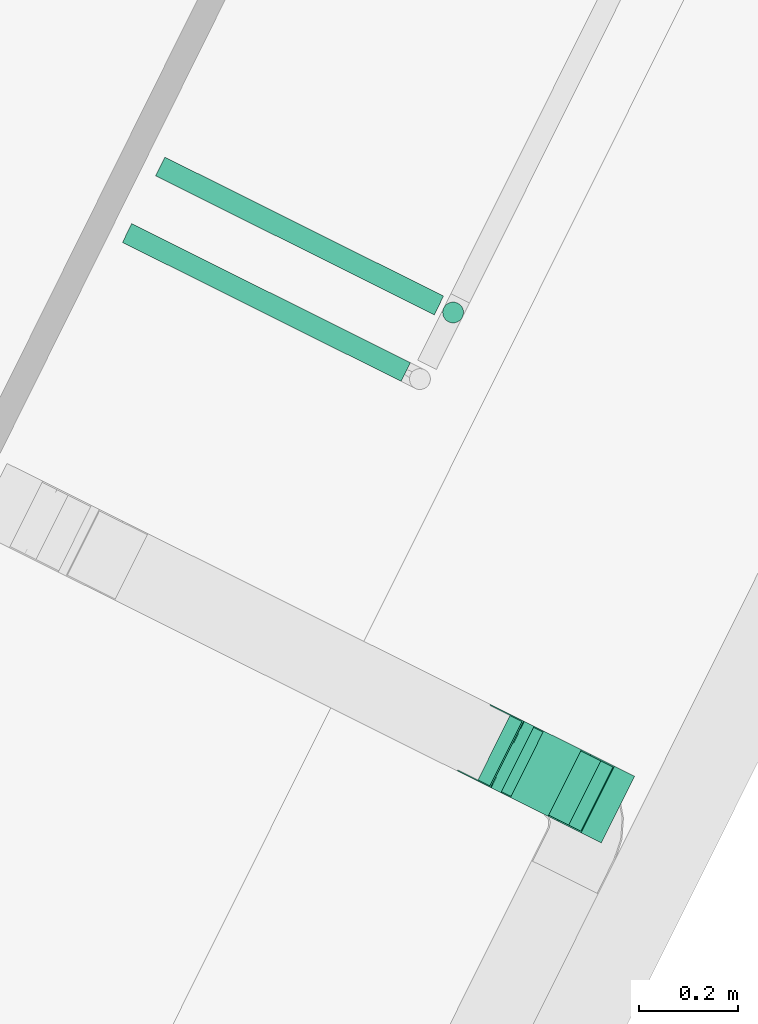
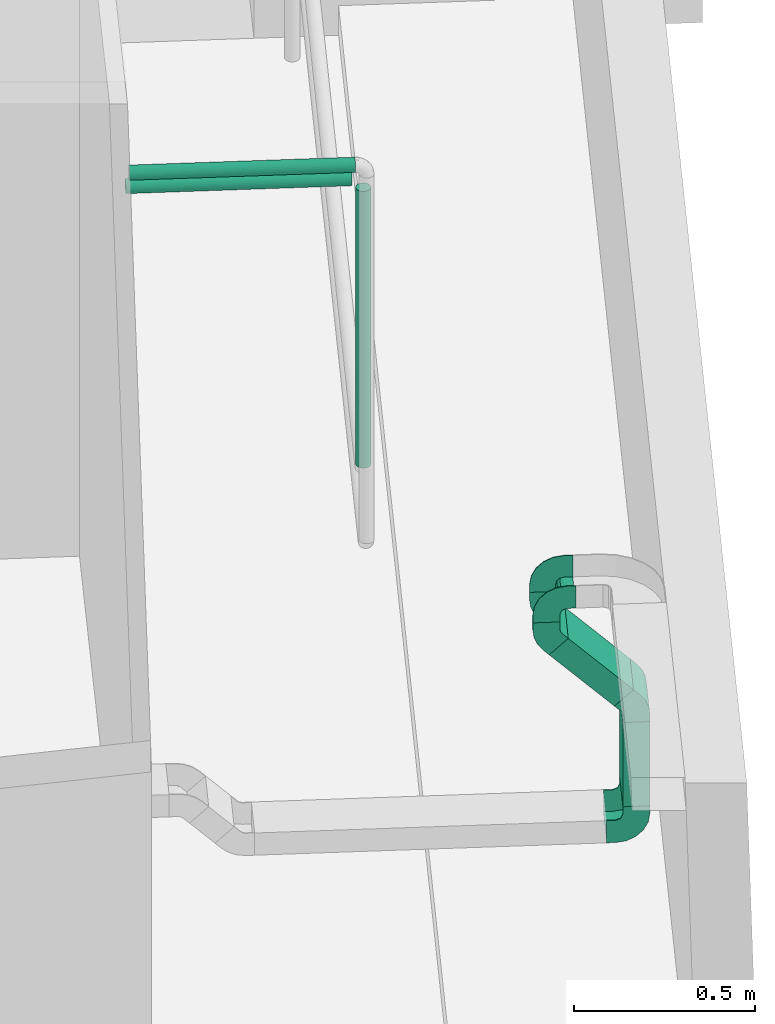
# One storey, part 22 of 34: 5 flow segments, 4 flow fittings.
"""IFC2X3 building model written with IfcOpenShell, lengths in metres."""

from ifc_helpers import new_model, entity, si_unit, converted_unit, derived_unit, direction, frame, frame_2d, origin, origin_2d_with_axis, place, context, subcontext, project, spatial, rectangle, circle, extrude, faceted_brep, source, transform, mapped, type_object, type_shapes, element, save


model = new_model("IFC2X3")

# Units and contexts
model_context = context("Model", 3, precision=1e-05, world=origin(), true_north=direction((0.894925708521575, 0.446215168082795)))
context_of_model = context(None, 3, precision=1e-05, world=origin(), true_north=direction((0.894925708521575, 0.446215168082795)))
body_context = subcontext(model_context, "Body", "Model", "MODEL_VIEW")
ifc_project = project(units=[si_unit("LENGTHUNIT", "METRE"), si_unit("AREAUNIT", "SQUARE_METRE"), si_unit("VOLUMEUNIT", "CUBIC_METRE"), converted_unit("PLANEANGLEUNIT", "DEGREE", entity("IfcRatioMeasure", 0.0174532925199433), si_unit("PLANEANGLEUNIT", "RADIAN"), dimensions=[0, 0, 0, 0, 0, 0, 0]), si_unit("MASSUNIT", "GRAM", prefix="KILO"), si_unit("TIMEUNIT", "SECOND"), si_unit("FREQUENCYUNIT", "HERTZ"), si_unit("THERMODYNAMICTEMPERATUREUNIT", "DEGREE_CELSIUS"), derived_unit("THERMALTRANSMITTANCEUNIT", [(si_unit("MASSUNIT", "GRAM", prefix="KILO"), 1), (si_unit("THERMODYNAMICTEMPERATUREUNIT", "KELVIN"), -1), (si_unit("TIMEUNIT", "SECOND"), -3)]), derived_unit("VOLUMETRICFLOWRATEUNIT", [(si_unit("LENGTHUNIT", "METRE"), 3), (si_unit("TIMEUNIT", "SECOND"), -1)]), si_unit("ELECTRICCURRENTUNIT", "AMPERE"), si_unit("ELECTRICVOLTAGEUNIT", "VOLT"), si_unit("POWERUNIT", "WATT"), si_unit("FORCEUNIT", "NEWTON", prefix="KILO"), si_unit("ILLUMINANCEUNIT", "LUX"), si_unit("LUMINOUSFLUXUNIT", "LUMEN"), si_unit("LUMINOUSINTENSITYUNIT", "CANDELA"), si_unit("PRESSUREUNIT", "PASCAL")], contexts=[model_context, context_of_model])

# Site, building, storey
site_placement = place(None, frame((218.228324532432, 584.720189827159, 0.0), z_axis=(0.0, 0.0, 1.0), x_axis=(0.446215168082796, 0.894925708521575, 0.0)))
site = spatial("IfcSite", under=ifc_project, at=site_placement, Name="Default", CompositionType="ELEMENT")
building_placement = place(site_placement, origin())
building = spatial("IfcBuilding", under=site, at=building_placement, CompositionType="ELEMENT")
storey_placement = place(building_placement, frame((0.0, 0.0, 8.61)))
storey = spatial("IfcBuildingStorey", under=building, at=storey_placement, Name="2 - Piano Secondo", CompositionType="ELEMENT", Elevation=8.61)

# Flow segments
cable_carrier_segment_type = type_object("IfcCableCarrierSegmentType", Name="Passerella con raccordi:Passerella canale", PredefinedType="NOTDEFINED")
flow_segment_1_placement = place(storey_placement, frame((-1.13742741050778, -13.1610789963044, 0.270000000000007)))
element("IfcFlowSegment", 1, at=flow_segment_1_placement, inside=storey, type_object=cable_carrier_segment_type, Name="Passerella con raccordi:Passerella canale", ObjectType="Passerella con raccordi:Passerella canale", context=body_context, shape_type="SweptSolid", body=[
    extrude(rectangle(XDim=0.15, YDim=0.0750000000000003, at=origin_2d_with_axis()), frame((0.0750000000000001, 0.0375000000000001, 0.0)), (0.0, 0.0, 1.0), 0.284865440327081),
])
flow_segment_2_placement = place(storey_placement, frame((-1.13742741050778, -13.1155764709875, 0.611685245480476)))
element("IfcFlowSegment", 2, at=flow_segment_2_placement, inside=storey, type_object=cable_carrier_segment_type, Name="Passerella con raccordi:Passerella canale", ObjectType="Passerella con raccordi:Passerella canale", context=body_context, shape_type="SweptSolid", body=[
    extrude(rectangle(XDim=0.0750000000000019, YDim=0.15, at=frame_2d((0.0, 7.63278329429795e-16), x_axis=(0.0, 1.0))), frame((0.0750000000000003, 0.0265165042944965, 0.0265165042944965), z_axis=(0.0, 0.70710678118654, 0.707106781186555), x_axis=(1.0, 0.0, 0.0)), (0.0, 0.0, 1.0), 0.25591883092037),
])
pipe_segment_type = type_object("IfcPipeSegmentType", Name="Tubazione:Antincendio-Tubazione", PredefinedType="NOTDEFINED")
flow_segment_3_placement = place(storey_placement, frame((-0.486246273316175, -12.3840789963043, 1.97732272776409)))
element("IfcFlowSegment", 3, at=flow_segment_3_placement, inside=storey, type_object=pipe_segment_type, Name="Tubazione:Antincendio-Tubazione", ObjectType="Tubazione:Antincendio-Tubazione", context=body_context, shape_type="SweptSolid", body=[
    extrude(circle(Radius=0.021082, at=frame_2d((6.76791955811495e-17, 0.0), x_axis=(1.0, 0.0))), frame((0.0226772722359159, 0.0, 0.0226772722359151), z_axis=(0.0, 1.0, 0.0), x_axis=(1.0, 0.0, 0.0)), (0.0, 0.0, 1.0), 0.627999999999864),
])
flow_segment_4_placement = place(storey_placement, frame((-0.336246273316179, -12.3840789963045, 1.82732272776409)))
element("IfcFlowSegment", 4, at=flow_segment_4_placement, inside=storey, type_object=pipe_segment_type, Name="Tubazione:Antincendio-Tubazione", ObjectType="Tubazione:Antincendio-Tubazione", context=body_context, shape_type="SweptSolid", body=[
    extrude(circle(Radius=0.021082, at=frame_2d((6.76791955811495e-17, -2.16573425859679e-15), x_axis=(1.0, 0.0))), frame((0.0226772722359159, 0.0, 0.022677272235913), z_axis=(0.0, 1.0, 0.0), x_axis=(1.0, 0.0, 0.0)), (0.0, 0.0, 1.0), 0.628000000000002),
])
flow_segment_5_placement = place(storey_placement, frame((-0.336246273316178, -12.4387562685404, 0.881999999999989)))
element("IfcFlowSegment", 5, at=flow_segment_5_placement, inside=storey, type_object=pipe_segment_type, Name="Tubazione:Antincendio-Tubazione", ObjectType="Tubazione:Antincendio-Tubazione", context=body_context, shape_type="SweptSolid", body=[
    extrude(circle(Radius=0.021082, at=origin_2d_with_axis()), frame((0.0226772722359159, 0.0226772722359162, 0.0)), (0.0, 0.0, 1.0), 0.936000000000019),
])

# Flow fittings
cable_carrier_fitting_type_1 = type_object("IfcCableCarrierFittingType", Name="Standard", PredefinedType="NOTDEFINED")
shared_shape_1 = source(origin(), body_context, "Body", "Brep", [
    faceted_brep([(-0.0824999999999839, -0.0375000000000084, -0.0750000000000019), (-0.0824999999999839, -0.0375000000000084, -0.0724600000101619), (-0.0824999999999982, 0.0349600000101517, -0.0724600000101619), (-0.0824999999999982, 0.0349600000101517, 0.0724600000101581), (-0.0824999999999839, -0.0375000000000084, 0.0724600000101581), (-0.0824999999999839, -0.0375000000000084, 0.0749999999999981), (-0.0824999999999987, 0.0374999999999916, 0.0749999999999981), (-0.0824999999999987, 0.0374999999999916, -0.0750000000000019), (-0.0374999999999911, 0.0824999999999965, -0.0750000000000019), (-0.0374999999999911, 0.0824999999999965, 0.0749999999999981), (0.0375000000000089, 0.0824999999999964, 0.0749999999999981), (0.0375000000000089, 0.0824999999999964, 0.0724600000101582), (-0.0349600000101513, 0.0824999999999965, 0.0724600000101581), (-0.0349600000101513, 0.0824999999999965, -0.0724600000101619), (0.0375000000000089, 0.0824999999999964, -0.0724600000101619), (0.0375000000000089, 0.0824999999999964, -0.0750000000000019), (-0.057499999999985, -0.0375000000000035, 0.0749999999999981), (-0.0470387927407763, -0.0358431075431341, 0.0749999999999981), (-0.0375910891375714, -0.0343467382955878, 0.0749999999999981), (-0.0281433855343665, -0.0328503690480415, 0.0749999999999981), (-0.0149018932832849, -0.0261034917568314, 0.0749999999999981), (-0.00166040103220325, -0.0193566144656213, 0.0749999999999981), (0.0088481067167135, -0.00884810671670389, 0.0749999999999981), (0.0193566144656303, 0.00166040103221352, 0.0749999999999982), (0.0261034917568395, 0.0149018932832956, 0.0749999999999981), (0.0328503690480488, 0.0281433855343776, 0.0749999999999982), (0.0343467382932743, 0.0375910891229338, 0.0749999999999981), (0.0358431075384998, 0.04703879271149, 0.0749999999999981), (0.0375000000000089, 0.0574999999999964, 0.0749999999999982), (-0.0374999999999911, 0.0574999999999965, 0.0749999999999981), (-0.0388551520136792, 0.0542283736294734, 0.0749999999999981), (-0.0404289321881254, 0.0504289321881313, 0.0749999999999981), (-0.0418933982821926, 0.0468933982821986, 0.0749999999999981), (-0.0433578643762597, 0.043357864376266, 0.0749999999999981), (-0.0471573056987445, 0.0417840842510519, 0.0749999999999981), (-0.0509567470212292, 0.0402103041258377, 0.0749999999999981), (-0.0542283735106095, 0.0388551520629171, 0.0749999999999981), (-0.0574999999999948, 0.0374999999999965, 0.0749999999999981), (-0.0574999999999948, 0.0374999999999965, -0.0750000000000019), (-0.0539644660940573, 0.0389644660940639, -0.0750000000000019), (-0.0504289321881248, 0.0404289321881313, -0.0750000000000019), (-0.0468933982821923, 0.0418933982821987, -0.0750000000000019), (-0.0433578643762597, 0.043357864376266, -0.0750000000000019), (-0.0418933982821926, 0.0468933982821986, -0.0750000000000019), (-0.0404289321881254, 0.0504289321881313, -0.0750000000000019), (-0.0389644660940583, 0.0539644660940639, -0.0750000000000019), (-0.0374999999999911, 0.0574999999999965, -0.0750000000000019), (0.0375000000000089, 0.0574999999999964, -0.0750000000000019), (0.0358431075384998, 0.0470387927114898, -0.0750000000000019), (0.0343467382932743, 0.0375910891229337, -0.0750000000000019), (0.0328503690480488, 0.0281433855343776, -0.0750000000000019), (0.0261034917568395, 0.0149018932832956, -0.0750000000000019), (0.0193566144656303, 0.00166040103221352, -0.0750000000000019), (0.0088481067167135, -0.00884810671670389, -0.0750000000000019), (-0.00166040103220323, -0.0193566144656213, -0.0750000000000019), (-0.0149018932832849, -0.0261034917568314, -0.0750000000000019), (-0.0281433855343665, -0.0328503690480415, -0.0750000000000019), (-0.0428216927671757, -0.0351751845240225, -0.0750000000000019), (-0.05749999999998, -0.0375000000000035, -0.0750000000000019), (-0.05749999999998, -0.0375000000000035, -0.0724600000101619), (-0.05749999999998, -0.0375000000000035, 0.0724600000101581), (-0.0428216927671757, -0.0351751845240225, -0.0724600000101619), (-0.0281433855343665, -0.0328503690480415, -0.0724600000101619), (-0.0149018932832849, -0.0261034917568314, -0.0724600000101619), (-0.00166040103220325, -0.0193566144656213, -0.0724600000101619), (0.0088481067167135, -0.00884810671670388, -0.0724600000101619), (0.0193566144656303, 0.00166040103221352, -0.0724600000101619), (0.0261034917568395, 0.0149018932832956, -0.0724600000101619), (0.0328503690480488, 0.0281433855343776, -0.0724600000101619), (0.0351751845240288, 0.042821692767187, -0.0724600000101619), (0.0375000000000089, 0.0574999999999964, -0.0724600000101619), (-0.0349600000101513, 0.0574999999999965, -0.0724600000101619), (-0.03646989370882, 0.0518650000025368, -0.0724600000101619), (-0.0379797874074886, 0.046230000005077, -0.0724600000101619), (-0.0421048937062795, 0.0421048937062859, -0.0724600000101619), (-0.0462300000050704, 0.0379797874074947, -0.0724600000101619), (-0.05186500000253, 0.0364698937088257, -0.0724600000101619), (-0.0574999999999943, 0.0349600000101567, -0.0724600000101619), (-0.0574999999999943, 0.0349600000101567, 0.0724600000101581), (-0.0281433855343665, -0.0328503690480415, 0.0724600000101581), (-0.0428216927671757, -0.0351751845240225, 0.0724600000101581), (-0.0532027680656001, 0.0361114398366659, 0.0724600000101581), (-0.0462300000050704, 0.0379797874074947, 0.0724600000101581), (-0.0421048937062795, 0.0421048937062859, 0.0724600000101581), (-0.0379797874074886, 0.046230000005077, 0.0724600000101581), (-0.0361114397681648, 0.053202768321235, 0.0724600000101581), (-0.0349600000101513, 0.0574999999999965, 0.0724600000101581), (0.0375000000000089, 0.0574999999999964, 0.0724600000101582), (0.0351751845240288, 0.042821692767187, 0.0724600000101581), (0.0328503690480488, 0.0281433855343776, 0.0724600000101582), (0.0261034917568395, 0.0149018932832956, 0.0724600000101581), (0.0193566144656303, 0.00166040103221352, 0.0724600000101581), (0.0088481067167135, -0.00884810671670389, 0.0724600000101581), (-0.00166040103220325, -0.0193566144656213, 0.0724600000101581), (-0.0149018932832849, -0.0261034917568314, 0.0724600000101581)], [[[0, 1, 2, 3, 4, 5, 6, 7]], [[8, 9, 10, 11, 12, 13, 14, 15]], [[6, 5, 16, 17, 18, 19, 20, 21, 22, 23, 24, 25, 26, 27, 28, 10, 9, 29, 30, 31, 32, 33, 34, 35, 36, 37]], [[7, 6, 37, 38]], [[7, 38, 39, 40, 41, 42, 43, 44, 45, 46, 8, 15, 47, 48, 49, 50, 51, 52, 53, 54, 55, 56, 57, 58, 0]], [[1, 0, 58, 59]], [[5, 4, 60, 16]], [[2, 1, 59, 61, 62, 63, 64, 65, 66, 67, 68, 69, 70, 14, 13, 71, 72, 73, 74, 75, 76, 77]], [[3, 2, 77, 78]], [[79, 80, 60, 4, 3, 78, 81, 82, 83, 84, 85, 86, 12, 11, 87, 88, 89, 90, 91, 92, 93, 94]], [[34, 33, 42, 41, 40, 39, 38, 37, 36, 35]], [[32, 31, 30, 29, 46, 45, 44, 43, 42, 33]], [[56, 62, 61, 59, 58, 57]], [[18, 17, 16, 60, 80, 79, 19]], [[63, 62, 56, 55, 54, 64]], [[79, 94, 93, 21, 20, 19]], [[68, 50, 49, 48, 47, 70, 69]], [[88, 87, 28, 27, 26, 25, 89]], [[64, 54, 53, 52, 66, 65]], [[23, 22, 21, 93, 92, 91]], [[67, 66, 52, 51, 50, 68]], [[91, 90, 89, 25, 24, 23]], [[82, 81, 78, 77, 76, 75]], [[73, 84, 83, 82, 75, 74]], [[71, 86, 85, 84, 73, 72]], [[46, 29, 9, 8]], [[70, 47, 15, 14]], [[28, 87, 11, 10]], [[86, 71, 13, 12]]]),
])
type_shapes(cable_carrier_fitting_type_1, [shared_shape_1])
flow_fitting_1_placement = place(storey_placement, frame((-1.06242741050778, -12.8735789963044, 0.984999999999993), z_axis=(-1.0, 0.0, 0.0), x_axis=(0.0, 1.0, 0.0)))
element("IfcFlowFitting", 6, at=flow_fitting_1_placement, inside=storey, type_object=cable_carrier_fitting_type_1, Name="M_Curvatura esterna verticale canale:Standard", ObjectType="Standard", context=body_context, shape_type="MappedRepresentation", body=[
    mapped(shared_shape_1, transform((0.0, 0.0, 0.0), scale=1.0)),
])
cable_carrier_fitting_type_2 = type_object("IfcCableCarrierFittingType", Name="Standard", PredefinedType="NOTDEFINED")
shared_shape_2 = source(origin(), body_context, "Body", "Brep", [
    faceted_brep([(-0.0488172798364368, -0.0375000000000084, -0.0750000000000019), (-0.0488172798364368, -0.0375000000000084, -0.0724600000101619), (-0.0488172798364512, 0.0349600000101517, -0.0724600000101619), (-0.0488172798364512, 0.0349600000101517, 0.0724600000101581), (-0.0488172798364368, -0.0375000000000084, 0.0724600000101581), (-0.0488172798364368, -0.0375000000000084, 0.0749999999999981), (-0.0488172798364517, 0.0374999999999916, 0.0749999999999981), (-0.0488172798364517, 0.0374999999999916, -0.0750000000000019), (0.00800252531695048, 0.0610355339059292, -0.0750000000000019), (0.00800252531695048, 0.0610355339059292, 0.0749999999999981), (0.0610355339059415, 0.00800252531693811, 0.0749999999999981), (0.0610355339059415, 0.00800252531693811, 0.0724600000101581), (0.00979857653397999, 0.0592394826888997, 0.0724600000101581), (0.00979857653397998, 0.0592394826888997, -0.0724600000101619), (0.0610355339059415, 0.00800252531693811, -0.0724600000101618), (0.0610355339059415, 0.00800252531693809, -0.0750000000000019), (-0.0238172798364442, -0.0375000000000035, 0.0749999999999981), (-0.0133030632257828, -0.036115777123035, 0.0749999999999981), (0.000770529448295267, -0.034262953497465, 0.0749999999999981), (0.0122266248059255, -0.0295176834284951, 0.0749999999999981), (0.0236827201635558, -0.0247724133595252, 0.0749999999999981), (0.0335202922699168, -0.0172237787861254, 0.0749999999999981), (0.0433578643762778, -0.00967514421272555, 0.0749999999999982), (-0.00967514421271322, 0.0433578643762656, 0.0749999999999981), (-0.0141517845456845, 0.0403666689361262, 0.0749999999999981), (-0.0161636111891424, 0.0390224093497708, 0.0749999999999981), (-0.0199904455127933, 0.0382612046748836, 0.0749999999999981), (-0.0238172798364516, 0.0374999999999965, 0.0749999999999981), (-0.0238172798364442, 0.0374999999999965, -0.00307689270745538), (-0.0238172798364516, 0.0374999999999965, -0.0750000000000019), (-0.0185367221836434, 0.0385503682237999, -0.0750000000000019), (-0.0161636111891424, 0.0390224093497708, -0.0750000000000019), (-0.0129193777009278, 0.0411901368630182, -0.0750000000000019), (-0.0096751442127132, 0.0433578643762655, -0.0750000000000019), (0.0433578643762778, -0.00967514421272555, -0.0750000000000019), (0.0335202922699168, -0.0172237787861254, -0.0750000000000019), (0.0236827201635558, -0.0247724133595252, -0.0750000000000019), (0.0122266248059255, -0.0295176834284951, -0.0750000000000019), (0.000770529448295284, -0.034262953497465, -0.0750000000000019), (-0.0133030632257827, -0.036115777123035, -0.0750000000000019), (-0.0238172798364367, -0.0375000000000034, -0.0750000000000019), (-0.0238172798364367, -0.0375000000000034, -0.0724600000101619), (-0.0238172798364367, -0.0375000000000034, 0.0724600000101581), (-0.0115233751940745, -0.0358814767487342, -0.0724600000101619), (0.000770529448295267, -0.034262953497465, -0.0724600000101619), (0.0122266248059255, -0.0295176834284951, -0.0724600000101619), (0.0236827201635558, -0.0247724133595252, -0.0724600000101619), (0.0349443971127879, -0.0161310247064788, -0.0724600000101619), (0.0433578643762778, -0.00967514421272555, -0.0724600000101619), (-0.00787909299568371, 0.0415618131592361, -0.0724600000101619), (-0.0115353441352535, 0.0391187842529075, -0.0724600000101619), (-0.0151915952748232, 0.0366757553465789, -0.0724600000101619), (-0.0182114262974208, 0.0360750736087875, -0.0724600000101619), (-0.0238172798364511, 0.0349600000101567, -0.0724600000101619), (-0.0238172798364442, 0.0349600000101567, -0.0104266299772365), (-0.0238172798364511, 0.0349600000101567, 0.0724600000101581), (-0.0195044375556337, 0.0358178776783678, 0.0724600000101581), (-0.0151915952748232, 0.0366757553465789, 0.0724600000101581), (-0.012631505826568, 0.0383863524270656, 0.0724600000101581), (-0.00787909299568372, 0.041561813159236, 0.0724600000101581), (0.0433578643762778, -0.00967514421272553, 0.0724600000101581), (0.0335202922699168, -0.0172237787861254, 0.0724600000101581), (0.0236827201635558, -0.0247724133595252, 0.0724600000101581), (0.0122266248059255, -0.0295176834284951, 0.0724600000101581), (0.000770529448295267, -0.034262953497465, 0.0724600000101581), (-0.0115233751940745, -0.0358814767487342, 0.0724600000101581), (-0.0173020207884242, 0.0385909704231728, 0.0), (-0.0132021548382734, 0.0405495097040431, -0.00928633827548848), (-0.00967514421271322, 0.0433578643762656, 0.00307688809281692), (-0.0166423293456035, 0.0361324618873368, 0.0), (-0.00787909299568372, 0.0415618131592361, 0.0104266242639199), (-0.0120504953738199, 0.0382751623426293, -0.000444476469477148)], [[[0, 1, 2, 3, 4, 5, 6, 7]], [[8, 9, 10, 11, 12, 13, 14, 15]], [[5, 16, 17, 18, 19, 20, 21, 22, 10, 9, 23, 24, 25, 26, 27, 6]], [[7, 6, 27, 28, 29]], [[7, 29, 30, 31, 32, 33, 8, 15, 34, 35, 36, 37, 38, 39, 40, 0]], [[1, 0, 40, 41]], [[5, 4, 42, 16]], [[1, 41, 43, 44, 45, 46, 47, 48, 14, 13, 49, 50, 51, 52, 53, 2]], [[3, 2, 53, 54, 55]], [[3, 55, 56, 57, 58, 59, 12, 11, 60, 61, 62, 63, 64, 65, 42, 4]], [[28, 26, 66]], [[67, 68, 33]], [[30, 66, 31]], [[30, 29, 28]], [[26, 28, 27]], [[26, 25, 66]], [[24, 66, 25]], [[32, 31, 67, 33]], [[28, 66, 30]], [[67, 66, 24]], [[24, 23, 68]], [[68, 67, 24]], [[66, 67, 31]], [[43, 41, 40, 39, 38, 44]], [[18, 17, 16, 42, 65, 64]], [[44, 38, 37, 36, 46, 45]], [[20, 19, 18, 64, 63, 62]], [[47, 46, 36, 35, 34, 48]], [[22, 21, 20, 62, 61, 60]], [[56, 54, 69]], [[50, 49, 70]], [[70, 59, 58]], [[51, 50, 71]], [[54, 52, 69]], [[58, 71, 70]], [[57, 69, 71]], [[69, 57, 56]], [[51, 69, 52]], [[55, 54, 56]], [[54, 53, 52]], [[57, 71, 58]], [[51, 71, 69]], [[70, 71, 50]], [[8, 33, 68, 23, 9]], [[48, 34, 15, 14]], [[22, 60, 11, 10]], [[13, 12, 59, 70, 49]]]),
])
type_shapes(cable_carrier_fitting_type_2, [shared_shape_2])
flow_fitting_2_placement = place(storey_placement, frame((-1.06242741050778, -12.8735789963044, 0.85368272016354), z_axis=(1.0, 0.0, 0.0), x_axis=(0.0, 0.707106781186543, 0.707106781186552)))
element("IfcFlowFitting", 7, at=flow_fitting_2_placement, inside=storey, type_object=cable_carrier_fitting_type_2, Name="M_Curvatura esterna verticale canale:Standard", ObjectType="Standard", context=body_context, shape_type="MappedRepresentation", body=[
    mapped(shared_shape_2, transform((0.0, 0.0, 0.0), scale=1.0)),
])
cable_carrier_fitting_type_3 = type_object("IfcCableCarrierFittingType", Name="Standard", PredefinedType="NOTDEFINED")
shared_shape_3 = source(origin(), body_context, "Body", "Brep", [
    faceted_brep([(-0.0488172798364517, -0.0374999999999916, -0.0750000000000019), (-0.0488172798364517, -0.0374999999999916, -0.0724600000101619), (-0.0488172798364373, 0.0349600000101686, -0.0724600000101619), (-0.0488172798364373, 0.0349600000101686, 0.0724600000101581), (-0.0488172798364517, -0.0374999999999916, 0.0724600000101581), (-0.0488172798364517, -0.0374999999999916, 0.0749999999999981), (-0.0488172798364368, 0.0375000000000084, 0.0749999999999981), (-0.0488172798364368, 0.0375000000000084, -0.0750000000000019), (0.059239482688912, -0.00979857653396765, -0.0724600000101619), (0.00800252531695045, -0.0610355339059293, -0.0724600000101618), (0.00800252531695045, -0.0610355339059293, -0.0750000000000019), (0.0610355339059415, -0.00800252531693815, -0.0750000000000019), (0.0610355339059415, -0.00800252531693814, 0.0749999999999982), (0.00800252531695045, -0.0610355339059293, 0.0749999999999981), (0.00800252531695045, -0.0610355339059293, 0.0724600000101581), (0.059239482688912, -0.00979857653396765, 0.0724600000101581), (-0.0238172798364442, -0.0374999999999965, 0.0749999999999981), (-0.0199904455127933, -0.0382612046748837, 0.0749999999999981), (-0.0161636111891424, -0.0390224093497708, 0.0749999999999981), (-0.0129193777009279, -0.0411901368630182, 0.0749999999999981), (-0.00967514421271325, -0.0433578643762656, 0.0749999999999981), (0.0433578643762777, 0.0096751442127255, 0.0749999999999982), (0.0236827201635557, 0.0247724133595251, 0.0749999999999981), (0.000770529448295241, 0.034262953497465, 0.0749999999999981), (-0.0238172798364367, 0.0375000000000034, 0.0749999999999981), (-0.0238172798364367, 0.0375000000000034, -0.0750000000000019), (0.000770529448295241, 0.034262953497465, -0.0750000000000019), (0.0236827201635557, 0.0247724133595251, -0.0750000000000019), (0.0433578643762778, 0.00967514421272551, -0.0750000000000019), (-0.00967514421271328, -0.0433578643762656, -0.0750000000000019), (-0.0129193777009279, -0.0411901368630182, -0.0750000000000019), (-0.0161636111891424, -0.0390224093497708, -0.0750000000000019), (-0.0190619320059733, -0.0384458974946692, -0.0750000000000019), (-0.0238172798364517, -0.0374999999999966, -0.0750000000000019), (-0.0238172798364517, -0.0374999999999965, -0.0724600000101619), (-0.0238172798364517, -0.0374999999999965, 0.0724600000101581), (-0.0199904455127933, -0.0382612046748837, -0.0724600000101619), (-0.0161636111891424, -0.0390224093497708, -0.0724600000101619), (-0.0129193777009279, -0.0411901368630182, -0.0724600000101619), (-0.00967514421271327, -0.0433578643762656, -0.0724600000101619), (0.0415618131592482, 0.007879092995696, -0.0724600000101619), (0.0224127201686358, 0.0225727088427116, -0.0724600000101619), (0.000113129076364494, 0.0318095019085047, -0.0724600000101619), (-0.0238172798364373, 0.0349600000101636, -0.0724600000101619), (-0.0238172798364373, 0.0349600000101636, 0.0724600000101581), (0.000113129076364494, 0.0318095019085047, 0.0724600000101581), (0.0224127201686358, 0.0225727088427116, 0.0724600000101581), (0.0415618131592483, 0.00787909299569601, 0.0724600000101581), (-0.00967514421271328, -0.0433578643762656, 0.0724600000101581), (-0.0137065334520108, -0.0406641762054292, 0.0724600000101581), (-0.0161636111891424, -0.0390224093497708, 0.0724600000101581), (-0.0199904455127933, -0.0382612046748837, 0.0724600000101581)], [[[0, 1, 2, 3, 4, 5, 6, 7]], [[8, 9, 10, 11, 12, 13, 14, 15]], [[5, 16, 17, 18, 19, 20, 13, 12, 21, 22, 23, 24, 6]], [[24, 25, 7, 6]], [[7, 25, 26, 27, 28, 11, 10, 29, 30, 31, 32, 33, 0]], [[34, 1, 0, 33]], [[16, 5, 4, 35]], [[1, 34, 36, 37, 38, 39, 9, 8, 40, 41, 42, 43, 2]], [[43, 44, 3, 2]], [[3, 44, 45, 46, 47, 15, 14, 48, 49, 50, 51, 35, 4]], [[24, 23, 26, 25]], [[23, 22, 27, 26]], [[22, 21, 28, 27]], [[37, 36, 34, 33, 32, 31]], [[35, 51, 50, 18, 17, 16]], [[38, 37, 31, 30, 29, 39]], [[18, 50, 49, 48, 20, 19]], [[43, 42, 45, 44]], [[42, 41, 46, 45]], [[41, 40, 47, 46]], [[11, 28, 21, 12]], [[9, 39, 29, 10]], [[13, 20, 48, 14]], [[8, 15, 47, 40]]]),
])
type_shapes(cable_carrier_fitting_type_3, [shared_shape_3])
flow_fitting_3_placement = place(storey_placement, frame((-1.06242741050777, -13.1235789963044, 0.603682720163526), z_axis=(1.0, 0.0, 0.0), x_axis=(0.0, 0.0, 1.0)))
element("IfcFlowFitting", 8, at=flow_fitting_3_placement, inside=storey, type_object=cable_carrier_fitting_type_3, Name="M_Curvatura interna verticale canale:Standard", ObjectType="Standard", context=body_context, shape_type="MappedRepresentation", body=[
    mapped(shared_shape_3, transform((0.0, 0.0, 0.0), scale=1.0)),
])
cable_carrier_fitting_type_4 = type_object("IfcCableCarrierFittingType", Name="Standard", PredefinedType="NOTDEFINED")
shared_shape_4 = source(origin(), body_context, "Body", "Brep", [
    faceted_brep([(-0.0824999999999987, -0.0374999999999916, -0.0750000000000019), (-0.0824999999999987, -0.0374999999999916, -0.0724600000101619), (-0.0824999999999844, 0.0349600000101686, -0.0724600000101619), (-0.0824999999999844, 0.0349600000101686, 0.0724600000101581), (-0.0824999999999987, -0.0374999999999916, 0.0724600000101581), (-0.0824999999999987, -0.0374999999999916, 0.0749999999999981), (-0.0824999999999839, 0.0375000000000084, 0.0749999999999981), (-0.0824999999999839, 0.0375000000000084, -0.0750000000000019), (0.034960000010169, -0.0824999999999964, -0.0724600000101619), (-0.0374999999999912, -0.0824999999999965, -0.0724600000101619), (-0.0374999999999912, -0.0824999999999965, -0.0750000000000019), (0.0375000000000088, -0.0824999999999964, -0.0750000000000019), (0.0375000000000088, -0.0824999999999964, 0.0749999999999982), (-0.0374999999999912, -0.0824999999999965, 0.0749999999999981), (-0.0374999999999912, -0.0824999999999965, 0.0724600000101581), (0.034960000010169, -0.0824999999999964, 0.0724600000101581), (-0.05749999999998, 0.0375000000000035, 0.0749999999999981), (-0.0574999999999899, -0.0374999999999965, 0.0749999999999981), (-0.0531066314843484, -0.0393197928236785, 0.0749999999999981), (-0.0504289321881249, -0.0404289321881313, 0.0749999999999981), (-0.0468933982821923, -0.0418933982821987, 0.0749999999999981), (-0.0433578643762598, -0.043357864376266, 0.0749999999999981), (-0.0418933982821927, -0.0468933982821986, 0.0749999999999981), (-0.0404289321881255, -0.0504289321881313, 0.0749999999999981), (-0.0389644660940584, -0.0539644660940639, 0.0749999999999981), (-0.0374999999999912, -0.0574999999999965, 0.0749999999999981), (0.0375000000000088, -0.0574999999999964, 0.0749999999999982), (0.0328503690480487, -0.0281433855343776, 0.0749999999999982), (0.0193566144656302, -0.00166040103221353, 0.0749999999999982), (-0.0016604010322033, 0.0193566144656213, 0.0749999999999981), (-0.0281433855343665, 0.0328503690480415, 0.0749999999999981), (-0.05749999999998, 0.0375000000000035, -0.0750000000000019), (-0.0281433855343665, 0.0328503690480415, -0.0750000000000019), (-0.0016604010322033, 0.0193566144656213, -0.0750000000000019), (0.0193566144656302, -0.00166040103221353, -0.0750000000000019), (0.0328503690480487, -0.0281433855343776, -0.0750000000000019), (0.0375000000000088, -0.0574999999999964, -0.0750000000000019), (-0.0374999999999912, -0.0574999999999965, -0.0750000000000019), (-0.0389644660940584, -0.0539644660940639, -0.0750000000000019), (-0.0404289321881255, -0.0504289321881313, -0.0750000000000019), (-0.0418933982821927, -0.0468933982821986, -0.0750000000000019), (-0.0433578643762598, -0.043357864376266, -0.0750000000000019), (-0.0487132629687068, -0.0411395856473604, -0.0750000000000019), (-0.0531066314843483, -0.0393197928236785, -0.0750000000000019), (-0.0574999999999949, -0.0374999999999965, -0.0750000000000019), (-0.0574999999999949, -0.0374999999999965, -0.0724600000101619), (-0.0574999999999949, -0.0374999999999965, 0.0724600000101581), (-0.0574999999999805, 0.0349600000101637, -0.0724600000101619), (-0.0531066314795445, -0.0393197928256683, -0.0724600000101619), (-0.0504289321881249, -0.0404289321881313, -0.0724600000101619), (-0.0468933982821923, -0.0418933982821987, -0.0724600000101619), (-0.0433578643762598, -0.043357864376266, -0.0724600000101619), (-0.0418933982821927, -0.0468933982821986, -0.0724600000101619), (-0.0404289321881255, -0.0504289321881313, -0.0724600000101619), (-0.0389644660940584, -0.0539644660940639, -0.0724600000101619), (-0.0374999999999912, -0.0574999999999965, -0.0724600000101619), (0.034960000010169, -0.0574999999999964, -0.0724600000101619), (0.0304346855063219, -0.0289282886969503, -0.0724600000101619), (0.0173017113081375, -0.00315337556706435, -0.0724600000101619), (-0.00315337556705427, 0.0173017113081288, -0.0724600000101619), (-0.0289282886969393, 0.0304346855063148, -0.0724600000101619), (-0.0574999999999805, 0.0349600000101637, 0.0724600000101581), (-0.0289282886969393, 0.0304346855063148, 0.0724600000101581), (-0.00315337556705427, 0.0173017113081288, 0.0724600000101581), (0.0173017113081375, -0.00315337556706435, 0.0724600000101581), (0.0304346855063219, -0.0289282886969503, 0.0724600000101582), (0.034960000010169, -0.0574999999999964, 0.0724600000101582), (-0.0374999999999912, -0.0574999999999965, 0.0724600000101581), (-0.0393197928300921, -0.0531066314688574, 0.0724600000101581), (-0.041139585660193, -0.0487132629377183, 0.0724600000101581), (-0.0433578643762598, -0.043357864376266, 0.0724600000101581), (-0.0468933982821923, -0.0418933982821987, 0.0724600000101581), (-0.0504289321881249, -0.0404289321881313, 0.0724600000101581), (-0.0539644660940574, -0.0389644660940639, 0.0724600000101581)], [[[0, 1, 2, 3, 4, 5, 6, 7]], [[8, 9, 10, 11, 12, 13, 14, 15]], [[16, 6, 5, 17, 18, 19, 20, 21, 22, 23, 24, 25, 13, 12, 26, 27, 28, 29, 30]], [[16, 31, 7, 6]], [[7, 31, 32, 33, 34, 35, 36, 11, 10, 37, 38, 39, 40, 41, 42, 43, 44, 0]], [[45, 1, 0, 44]], [[17, 5, 4, 46]], [[47, 2, 1, 45, 48, 49, 50, 51, 52, 53, 54, 55, 9, 8, 56, 57, 58, 59, 60]], [[47, 61, 3, 2]], [[3, 61, 62, 63, 64, 65, 66, 15, 14, 67, 68, 69, 70, 71, 72, 73, 46, 4]], [[29, 33, 32, 30]], [[16, 30, 32, 31]], [[29, 28, 34, 33]], [[35, 34, 28, 27]], [[36, 35, 27, 26]], [[43, 42, 41, 51, 50, 49, 48, 45, 44]], [[20, 19, 18, 17, 46, 73, 72, 71, 70, 21]], [[53, 52, 51, 41, 40, 39, 38, 37, 55, 54]], [[67, 25, 24, 23, 22, 21, 70, 69, 68]], [[60, 59, 63, 62]], [[47, 60, 62, 61]], [[59, 58, 64, 63]], [[64, 58, 57, 65]], [[65, 57, 56, 66]], [[11, 36, 26, 12]], [[9, 55, 37, 10]], [[13, 25, 67, 14]], [[15, 66, 56, 8]]]),
])
type_shapes(cable_carrier_fitting_type_4, [shared_shape_4])
flow_fitting_4_placement = place(storey_placement, frame((-1.06242741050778, -13.1235789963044, 0.187500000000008), z_axis=(1.0, 0.0, 0.0), x_axis=(0.0, -1.0, 0.0)))
element("IfcFlowFitting", 9, at=flow_fitting_4_placement, inside=storey, type_object=cable_carrier_fitting_type_4, Name="M_Curvatura interna verticale canale:Standard", ObjectType="Standard", context=body_context, shape_type="MappedRepresentation", body=[
    mapped(shared_shape_4, transform((0.0, 0.0, 0.0), scale=1.0)),
])

save(model, "model.ifc")
